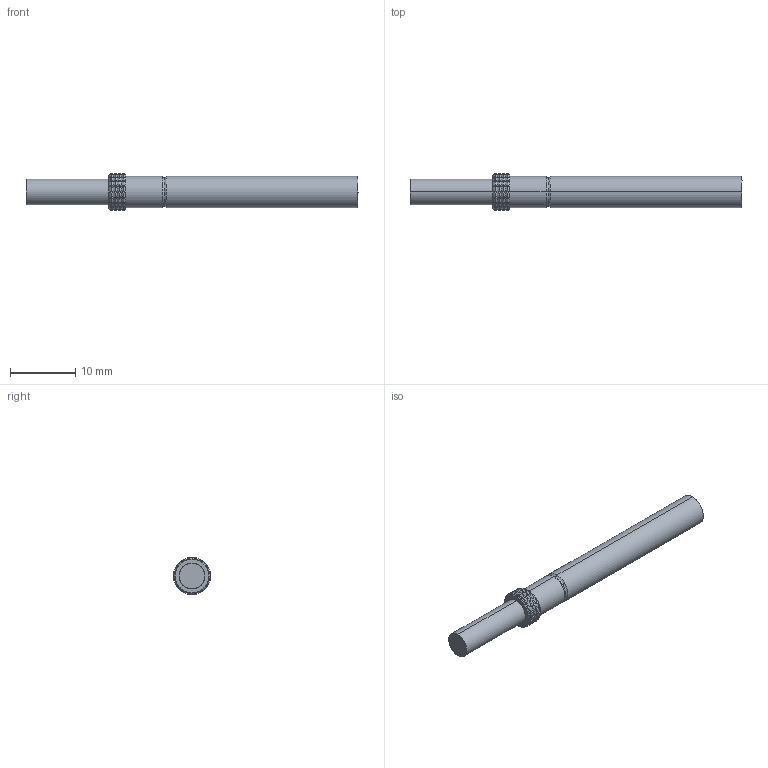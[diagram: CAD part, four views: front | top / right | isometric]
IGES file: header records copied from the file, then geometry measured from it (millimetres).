
Start section: SolidWorks IGES file using analytic representation for surfaces
Global section: file name: O:\PYLON\IGES FILES\P4301\P4301-2F.IGS; native system: SolidWorks 2015; preprocessor: SolidWorks 2015; author: kgolden; date: 171020.124150; units: inch
Bounding box: 50.8 x 5.7 x 5.7 mm (x, y, z)
Surface area: 1396.4 mm2 (no closed solid volume)
Topology: 0 solids, 0 shells, 370 faces, 1997 edges, 1997 vertices
Faces by surface type: revolution 193, bspline 177
